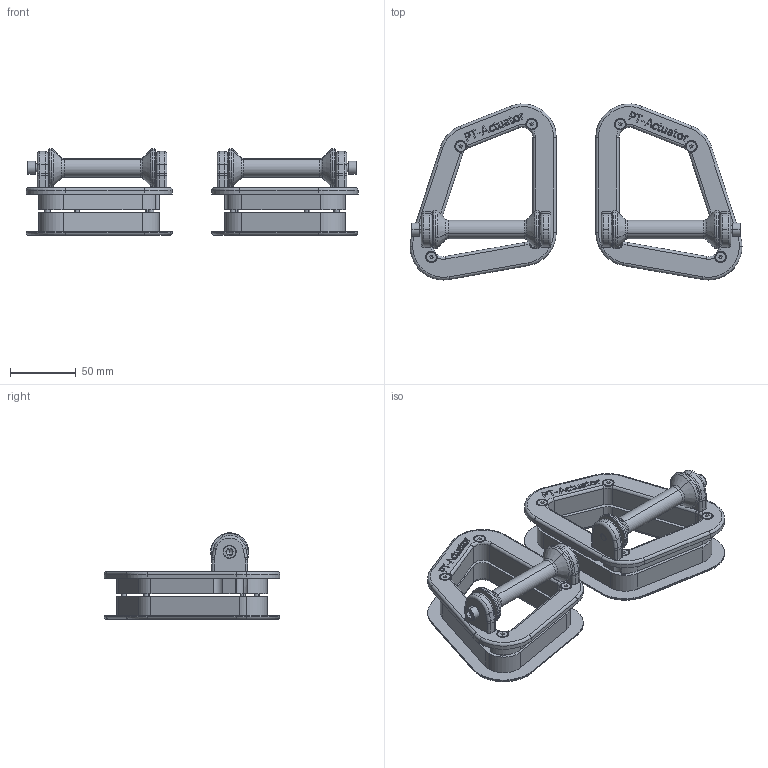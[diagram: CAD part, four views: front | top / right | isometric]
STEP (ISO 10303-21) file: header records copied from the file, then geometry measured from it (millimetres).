
FILE_DESCRIPTION (( 'STEP AP214' ), '1' );
FILE_NAME ('安全带一体式滚轮-AY2018-52.STEP', '2024-05-07T07:47:43', ( 'Windows 用户' ), ( '' ), 'SwSTEP 2.0', 'SolidWorks 2016', '' );
FILE_SCHEMA (( 'AUTOMOTIVE_DESIGN' ));
Length unit declared in the file: millimetre
Products named in the file (12): 酘ヶ嘐隅啣; 滚轮固定支架-螺纹; 幗雄謫; 酘綴幗謫嘐隅啣; 衵綴嘐隅啣; socket countersunk head screw_iso_ISO 4762 M6 x 60 - 24S; socket head shoulder screw2_iso_ISO 10642 - M5 x 16 - 16N; 安全带一体式滚轮-AY2018-52; 粣創杶; 衵ヶ嘐隅啣; 幗謫嘐隅盓殤; socket head shoulder screw2_iso_ISO 10642 - M4 x 25 - 25N
Assembly tree (31 placements, depth 2):
  安全带一体式滚轮-AY2018-52
    酘綴幗謫嘐隅啣
    幗雄謫  x2
    滚轮固定支架-螺纹  x2
    幗謫嘐隅盓殤  x2
    衵ヶ嘐隅啣
    衵綴嘐隅啣
    酘ヶ嘐隅啣
    粣創杶  x3
    socket head shoulder screw2_iso_ISO 10642 - M4 x 25 - 25N  x8
    socket head shoulder screw2_iso_ISO 10642 - M5 x 16 - 16N  x8
    socket countersunk head screw_iso_ISO 4762 M6 x 60 - 24S  x2
Bounding box: 252.25 x 133.71 x 65.61 mm (x, y, z)
Volume: 280546.5 mm3; surface area: 132268.3 mm2
Topology: 31 solids, 31 shells, 1619 faces, 3937 edges, 2370 vertices
Faces by surface type: plane 554, cylinder 425, cone 424, torus 120, bspline 96
Entity records: 37677 total; most frequent: CARTESIAN_POINT 10634, DIRECTION 4853, ORIENTED_EDGE 4814, EDGE_CURVE 2407, AXIS2_PLACEMENT_3D 1770, VERTEX_POINT 1505, LINE 1313, VECTOR 1313
